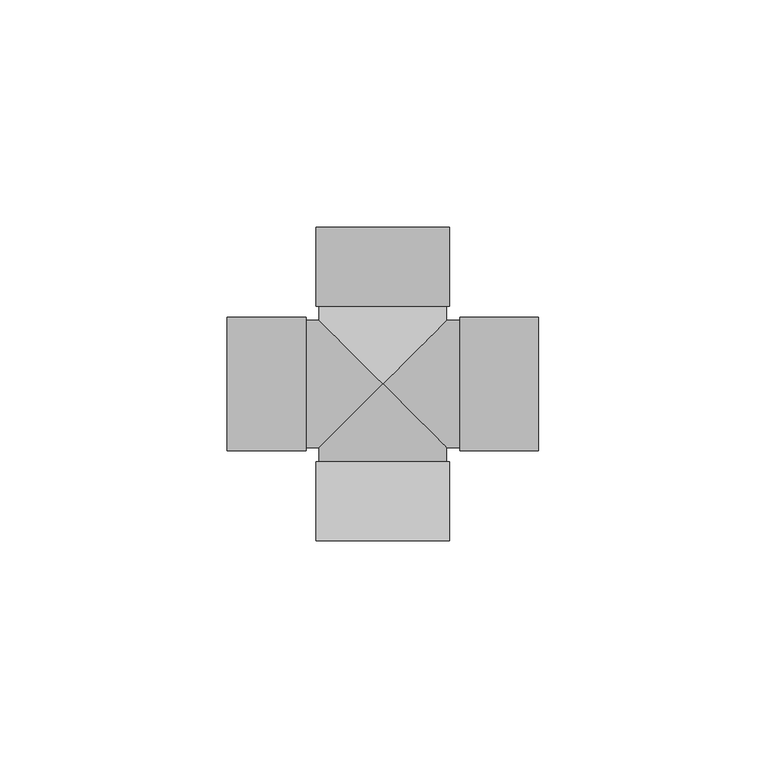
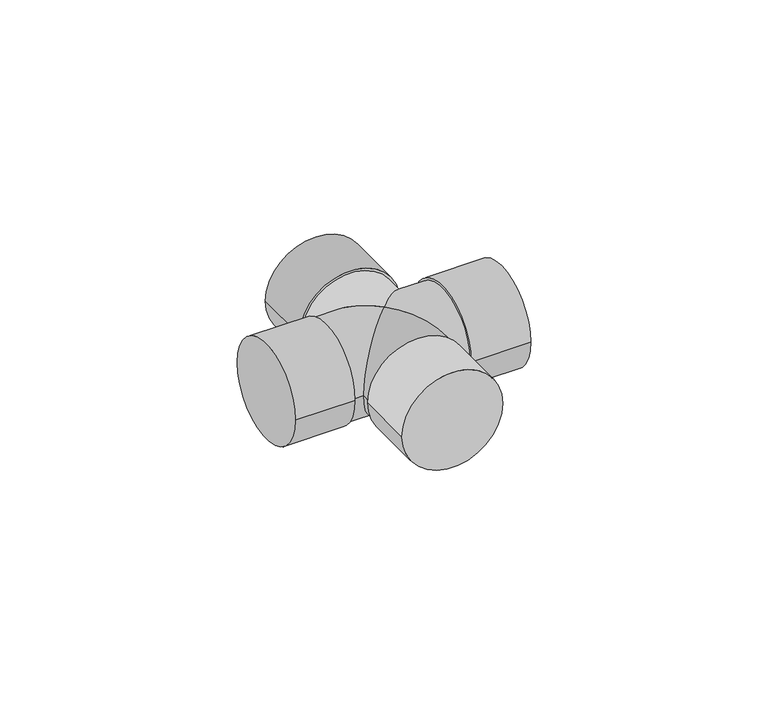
"""IFC4 building model written with IfcOpenShell, lengths in millimetres: pipe fitting geometry, Cruzeta - Soldada - CU : Padrão."""

from ifc_helpers import new_model, si_unit, frame, origin, place, context, project, spatial, circle_curve, ellipse_curve, source, transform, mapped, element, save
from ifc_brep_helpers import plane_surface, cylinder_surface, advanced_brep


def pipe_fitting_418687aa(model_context):
    return source(origin(), model_context, "Body", "AdvancedBrep", [
        advanced_brep(
        [(14.0, 14.0, 0.0), (14.0, 17.12, 0.0), (-14.0, 17.12, 0.0), (-14.0, 14.0, 0.0), (0.0, 0.0, 14.0), (0.0, 0.0, -14.0), (-14.0, -17.12, 0.0), (14.0, -17.12, 0.0), (14.0, -14.0, 0.0), (-14.0, -14.0, 0.0), (14.68, -34.48, 0.0), (-14.68, -34.48, 0.0), (14.68, -17.12, 0.0), (-14.68, -17.12, 0.0), (-34.29, -14.68, 0.0), (-34.29, 14.68, 0.0), (-16.93, -14.68, 0.0), (-16.93, 14.68, 0.0), (-16.93, -14.0, 0.0), (-16.93, 14.0, 0.0), (16.93, 14.0, 0.0), (16.93, -14.0, 0.0), (16.93, -14.68, 0.0), (16.93, 14.68, 0.0), (34.29, -14.68, 0.0), (34.29, 14.68, 0.0), (-14.68, 34.48, 0.0), (14.68, 34.48, 0.0), (-14.68, 17.12, 0.0), (14.68, 17.12, 0.0)],
        [
            (0, 1),
            (1, 2, circle_curve(frame((0.0, 17.12, 0.0), z_axis=(0.0, -1.0, 0.0), x_axis=(-1.0, 0.0, 0.0)), 14.0)),
            (2, 3),
            (3, 4, ellipse_curve(frame((0.0, 0.0, 0.0), z_axis=(0.7071067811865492, 0.7071067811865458, 0.0), x_axis=(0.7071067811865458, -0.7071067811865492, 0.0)), 19.7989899, 14.0)),
            (4, 0, ellipse_curve(frame((0.0, 0.0, 0.0), z_axis=(-0.7071067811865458, 0.7071067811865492, 0.0), x_axis=(-0.7071067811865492, -0.7071067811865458, 0.0)), 19.7989899, 14.0)),
            (0, 5, ellipse_curve(frame((0.0, 0.0, 0.0), z_axis=(-0.7071067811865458, 0.7071067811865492, 0.0), x_axis=(-0.7071067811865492, -0.7071067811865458, 0.0)), 19.7989899, 14.0)),
            (5, 3, ellipse_curve(frame((0.0, 0.0, 0.0), z_axis=(0.7071067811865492, 0.7071067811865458, 0.0), x_axis=(0.7071067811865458, -0.7071067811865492, 0.0)), 19.7989899, 14.0)),
            (2, 1, circle_curve(frame((0.0, 17.12, 0.0), z_axis=(0.0, -1.0, 0.0), x_axis=(-1.0, 0.0, 0.0)), 14.0)),
            (6, 7, circle_curve(frame((0.0, -17.12, 0.0), z_axis=(0.0, 1.0, 0.0), x_axis=(1.0, 0.0, 0.0)), 14.0)),
            (7, 8),
            (8, 4, ellipse_curve(frame((0.0, 0.0, 0.0), z_axis=(-0.7071067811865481, -0.7071067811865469, 0.0), x_axis=(-0.7071067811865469, 0.7071067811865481, 0.0)), 19.7989899, 14.0)),
            (4, 9, ellipse_curve(frame((0.0, 0.0, 0.0), z_axis=(0.7071067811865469, -0.7071067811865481, 0.0), x_axis=(0.707106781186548, 0.7071067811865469, 0.0)), 19.7989899, 14.0)),
            (9, 6),
            (7, 6, circle_curve(frame((0.0, -17.12, 0.0), z_axis=(0.0, 1.0, 0.0), x_axis=(1.0, 0.0, 0.0)), 14.0)),
            (9, 5, ellipse_curve(frame((0.0, 0.0, 0.0), z_axis=(0.7071067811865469, -0.7071067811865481, 0.0), x_axis=(0.707106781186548, 0.7071067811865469, 0.0)), 19.7989899, 14.0)),
            (5, 8, ellipse_curve(frame((0.0, 0.0, 0.0), z_axis=(-0.7071067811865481, -0.7071067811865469, 0.0), x_axis=(-0.7071067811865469, 0.7071067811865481, 0.0)), 19.7989899, 14.0)),
            (10, 11, circle_curve(frame((0.0, -34.48, 0.0), z_axis=(0.0, -1.0, 0.0), x_axis=(-1.0, 0.0, 0.0)), 14.68)),
            (11, 10, circle_curve(frame((0.0, -34.48, 0.0), z_axis=(0.0, -1.0, 0.0), x_axis=(-1.0, 0.0, 0.0)), 14.68)),
            (12, 13, circle_curve(frame((0.0, -17.12, 0.0), z_axis=(0.0, 1.0, 0.0), x_axis=(-1.0, 0.0, 0.0)), 14.68)),
            (13, 12, circle_curve(frame((0.0, -17.12, 0.0), z_axis=(0.0, 1.0, 0.0), x_axis=(-1.0, 0.0, 0.0)), 14.68)),
            (10, 12),
            (13, 11),
            (14, 15, circle_curve(frame((-34.29, 0.0, 0.0), z_axis=(-1.0, 0.0, 0.0), x_axis=(0.0, 1.0, 0.0)), 14.68)),
            (15, 14, circle_curve(frame((-34.29, 0.0, 0.0), z_axis=(-1.0, 0.0, 0.0), x_axis=(0.0, 1.0, 0.0)), 14.68)),
            (16, 17, circle_curve(frame((-16.93, 0.0, 0.0), z_axis=(1.0, 0.0, 0.0), x_axis=(0.0, 1.0, 0.0)), 14.68)),
            (17, 16, circle_curve(frame((-16.93, 0.0, 0.0), z_axis=(1.0, 0.0, 0.0), x_axis=(0.0, 1.0, 0.0)), 14.68)),
            (18, 19, circle_curve(frame((-16.93, 0.0, 0.0), z_axis=(-1.0, 0.0, 0.0), x_axis=(0.0, 1.0, 0.0)), 14.0)),
            (19, 18, circle_curve(frame((-16.93, 0.0, 0.0), z_axis=(-1.0, 0.0, 0.0), x_axis=(0.0, 1.0, 0.0)), 14.0)),
            (14, 16),
            (17, 15),
            (20, 0),
            (8, 21),
            (21, 20, circle_curve(frame((16.93, 0.0, 0.0), z_axis=(-1.0, 0.0, 0.0), x_axis=(0.0, 1.0, 0.0)), 14.0)),
            (3, 19),
            (18, 9),
            (20, 21, circle_curve(frame((16.93, 0.0, 0.0), z_axis=(-1.0, 0.0, 0.0), x_axis=(0.0, 1.0, 0.0)), 14.0)),
            (22, 23, circle_curve(frame((16.93, 0.0, 0.0), z_axis=(-1.0, 0.0, 0.0), x_axis=(0.0, 1.0, 0.0)), 14.68)),
            (23, 22, circle_curve(frame((16.93, 0.0, 0.0), z_axis=(-1.0, 0.0, 0.0), x_axis=(0.0, 1.0, 0.0)), 14.68)),
            (24, 25, circle_curve(frame((34.29, 0.0, 0.0), z_axis=(1.0, 0.0, 0.0), x_axis=(0.0, 1.0, 0.0)), 14.68)),
            (25, 24, circle_curve(frame((34.29, 0.0, 0.0), z_axis=(1.0, 0.0, 0.0), x_axis=(0.0, 1.0, 0.0)), 14.68)),
            (22, 24),
            (25, 23),
            (26, 27, circle_curve(frame((0.0, 34.48, 0.0), z_axis=(0.0, 1.0, 0.0), x_axis=(1.0, 0.0, 0.0)), 14.68)),
            (27, 26, circle_curve(frame((0.0, 34.48, 0.0), z_axis=(0.0, 1.0, 0.0), x_axis=(1.0, 0.0, 0.0)), 14.68)),
            (28, 29, circle_curve(frame((0.0, 17.12, 0.0), z_axis=(0.0, -1.0, 0.0), x_axis=(1.0, 0.0, 0.0)), 14.68)),
            (29, 28, circle_curve(frame((0.0, 17.12, 0.0), z_axis=(0.0, -1.0, 0.0), x_axis=(1.0, 0.0, 0.0)), 14.68)),
            (26, 28),
            (29, 27),
        ],
        [
            cylinder_surface(frame((0.0, 0.0, 0.0), z_axis=(0.0, -1.0, 0.0), x_axis=(-1.0, 0.0, 0.0)), 14.0),
            cylinder_surface(frame((0.0, 0.0, 0.0), z_axis=(0.0, 1.0, 0.0), x_axis=(1.0, 0.0, 0.0)), 14.0),
            plane_surface(frame((0.0, -34.48, 0.0), z_axis=(0.0, -1.0, 0.0), x_axis=(0.0, 0.0, 1.0))),
            plane_surface(frame((0.0, -17.12, 0.0), z_axis=(0.0, 1.0, 0.0), x_axis=(0.0, 0.0, 1.0))),
            cylinder_surface(frame((0.0, -34.48, 0.0), z_axis=(0.0, -1.0, 0.0), x_axis=(-1.0, 0.0, 0.0)), 14.68),
            plane_surface(frame((-34.29, 0.0, 0.0), z_axis=(-1.0, 0.0, 0.0), x_axis=(0.0, 0.0, 1.0))),
            plane_surface(frame((-16.93, 0.0, 0.0), z_axis=(1.0, 0.0, 0.0), x_axis=(0.0, 0.0, 1.0))),
            cylinder_surface(frame((-34.29, 0.0, 0.0), z_axis=(-1.0, 0.0, 0.0), x_axis=(0.0, 1.0, 0.0)), 14.68),
            cylinder_surface(frame((-16.93, 0.0, 0.0), z_axis=(-1.0, 0.0, 0.0), x_axis=(0.0, 1.0, 0.0)), 14.0),
            plane_surface(frame((16.93, 0.0, 0.0), z_axis=(-1.0, 0.0, 0.0), x_axis=(0.0, 0.0, 1.0))),
            plane_surface(frame((34.29, 0.0, 0.0), z_axis=(1.0, 0.0, 0.0), x_axis=(0.0, 0.0, 1.0))),
            cylinder_surface(frame((16.93, 0.0, 0.0), z_axis=(-1.0, 0.0, 0.0), x_axis=(0.0, 1.0, 0.0)), 14.68),
            plane_surface(frame((0.0, 34.48, 0.0), z_axis=(0.0, 1.0, 0.0), x_axis=(0.0, 0.0, 1.0))),
            plane_surface(frame((0.0, 17.12, 0.0), z_axis=(0.0, -1.0, 0.0), x_axis=(0.0, 0.0, 1.0))),
            cylinder_surface(frame((0.0, 34.48, 0.0), z_axis=(0.0, 1.0, 0.0), x_axis=(1.0, 0.0, 0.0)), 14.68),
        ],
        [
            (0, [[1, 2, 3, 4, 5]]),
            (0, [[-1, 6, 7, -3, 8]]),
            (1, [[9, 10, 11, 12, 13]]),
            (1, [[14, -13, 15, 16, -10]]),
            (2, [[17, 18]]),
            (3, [[19, 20], [-9, -14]]),
            (4, [[-17, 21, -20, 22]]),
            (4, [[-18, -22, -19, -21]]),
            (5, [[23, 24]]),
            (6, [[25, 26], [27, 28]]),
            (7, [[-23, 29, -26, 30]]),
            (7, [[-24, -30, -25, -29]]),
            (8, [[31, -5, -11, 32, 33]]),
            (8, [[34, -27, 35, -12, -4]]),
            (8, [[-31, 36, -32, -16, -6]]),
            (8, [[-34, -7, -15, -35, -28]]),
            (9, [[37, 38], [-33, -36]]),
            (10, [[39, 40]]),
            (11, [[-37, 41, -40, 42]]),
            (11, [[-38, -42, -39, -41]]),
            (12, [[43, 44]]),
            (13, [[45, 46], [-2, -8]]),
            (14, [[-43, 47, -46, 48]]),
            (14, [[-44, -48, -45, -47]]),
        ],
    ),
    ])


if __name__ == "__main__":
    model = new_model("IFC4")
    model_context = context("Model", 3, world=origin())
    ifc_project = project(units=[si_unit("LENGTHUNIT", "METRE", prefix="MILLI")], contexts=[model_context])
    site = spatial("IfcSite", under=ifc_project)
    building = spatial("IfcBuilding", under=site)
    placement = place(None, origin())
    pipe_fitting_shape = pipe_fitting_418687aa(model_context)
    element("IfcPipeFitting", 1, ObjectType="Cruzeta - Soldada - CU : Padrão", at=placement, inside=building, context=model_context, shape_type="MappedRepresentation", body=[
        mapped(pipe_fitting_shape, transform((0.0, 0.0, 0.0), x_axis=(1.0, 0.0, 0.0), y_axis=(0.0, 1.0, 0.0), z_axis=(0.0, 0.0, 1.0))),
    ])
    save(model, "model.ifc")
